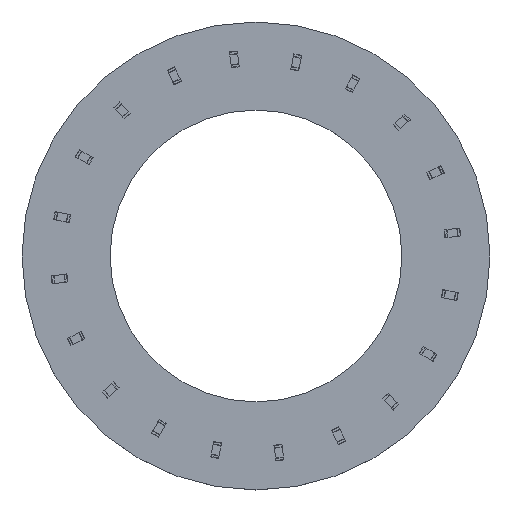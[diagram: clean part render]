
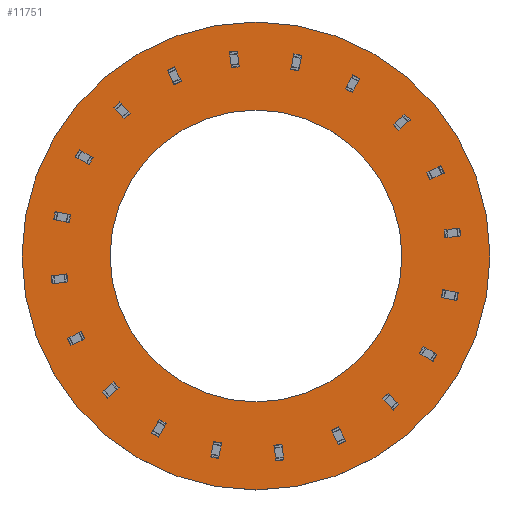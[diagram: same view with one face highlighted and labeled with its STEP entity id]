
A CAD part, top view. The second image highlights one B-rep face of the part: STEP entity #11751.
In plain terms, the highlighted planar face has unit normal (0, 0, 1).
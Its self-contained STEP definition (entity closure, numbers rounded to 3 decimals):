
#11635 = VERTEX_POINT('',#11636);
#11636 = CARTESIAN_POINT('',(23.622,0.,1.6));
#11643 = CYLINDRICAL_SURFACE('',#11644,23.622);
#11644 = AXIS2_PLACEMENT_3D('',#11645,#11646,#11647);
#11645 = CARTESIAN_POINT('',(0.,0.,0.));
#11646 = DIRECTION('',(0.,0.,-1.));
#11647 = DIRECTION('',(1.,0.,0.));
#11662 = EDGE_CURVE('',#11635,#11635,#11663,.T.);
#11663 = SURFACE_CURVE('',#11664,(#11669,#11676),.PCURVE_S1.);
#11664 = CIRCLE('',#11665,23.622);
#11665 = AXIS2_PLACEMENT_3D('',#11666,#11667,#11668);
#11666 = CARTESIAN_POINT('',(0.,0.,1.6));
#11667 = DIRECTION('',(0.,0.,1.));
#11668 = DIRECTION('',(1.,0.,0.));
#11669 = PCURVE('',#11643,#11670);
#11670 = DEFINITIONAL_REPRESENTATION('',(#11671),#11675);
#11671 = LINE('',#11672,#11673);
#11672 = CARTESIAN_POINT('',(0.,-1.6));
#11673 = VECTOR('',#11674,1.);
#11674 = DIRECTION('',(-1.,0.));
#11675 = ( GEOMETRIC_REPRESENTATION_CONTEXT(2) 
PARAMETRIC_REPRESENTATION_CONTEXT() REPRESENTATION_CONTEXT('2D SPACE',''
  ) );
#11676 = PCURVE('',#11677,#11682);
#11677 = PLANE('',#11678);
#11678 = AXIS2_PLACEMENT_3D('',#11679,#11680,#11681);
#11679 = CARTESIAN_POINT('',(0.,0.,
    1.6));
#11680 = DIRECTION('',(0.,0.,1.));
#11681 = DIRECTION('',(1.,0.,0.));
#11682 = DEFINITIONAL_REPRESENTATION('',(#11683),#11687);
#11683 = CIRCLE('',#11684,23.622);
#11684 = AXIS2_PLACEMENT_2D('',#11685,#11686);
#11685 = CARTESIAN_POINT('',(0.,0.));
#11686 = DIRECTION('',(1.,0.));
#11687 = ( GEOMETRIC_REPRESENTATION_CONTEXT(2) 
PARAMETRIC_REPRESENTATION_CONTEXT() REPRESENTATION_CONTEXT('2D SPACE',''
  ) );
#11740 = CYLINDRICAL_SURFACE('',#11741,14.732);
#11741 = AXIS2_PLACEMENT_3D('',#11742,#11743,#11744);
#11742 = CARTESIAN_POINT('',(0.,0.,0.));
#11743 = DIRECTION('',(0.,0.,-1.));
#11744 = DIRECTION('',(1.,0.,0.));
#11751 = ADVANCED_FACE('',(#11752,#11755),#11677,.T.);
#11752 = FACE_BOUND('',#11753,.T.);
#11753 = EDGE_LOOP('',(#11754));
#11754 = ORIENTED_EDGE('',*,*,#11662,.T.);
#11755 = FACE_BOUND('',#11756,.T.);
#11756 = EDGE_LOOP('',(#11757));
#11757 = ORIENTED_EDGE('',*,*,#11758,.F.);
#11758 = EDGE_CURVE('',#11759,#11759,#11761,.T.);
#11759 = VERTEX_POINT('',#11760);
#11760 = CARTESIAN_POINT('',(14.732,0.,1.6));
#11761 = SURFACE_CURVE('',#11762,(#11767,#11774),.PCURVE_S1.);
#11762 = CIRCLE('',#11763,14.732);
#11763 = AXIS2_PLACEMENT_3D('',#11764,#11765,#11766);
#11764 = CARTESIAN_POINT('',(0.,0.,1.6));
#11765 = DIRECTION('',(0.,0.,1.));
#11766 = DIRECTION('',(1.,0.,0.));
#11767 = PCURVE('',#11677,#11768);
#11768 = DEFINITIONAL_REPRESENTATION('',(#11769),#11773);
#11769 = CIRCLE('',#11770,14.732);
#11770 = AXIS2_PLACEMENT_2D('',#11771,#11772);
#11771 = CARTESIAN_POINT('',(0.,0.));
#11772 = DIRECTION('',(1.,0.));
#11773 = ( GEOMETRIC_REPRESENTATION_CONTEXT(2) 
PARAMETRIC_REPRESENTATION_CONTEXT() REPRESENTATION_CONTEXT('2D SPACE',''
  ) );
#11774 = PCURVE('',#11740,#11775);
#11775 = DEFINITIONAL_REPRESENTATION('',(#11776),#11780);
#11776 = LINE('',#11777,#11778);
#11777 = CARTESIAN_POINT('',(0.,-1.6));
#11778 = VECTOR('',#11779,1.);
#11779 = DIRECTION('',(-1.,0.));
#11780 = ( GEOMETRIC_REPRESENTATION_CONTEXT(2) 
PARAMETRIC_REPRESENTATION_CONTEXT() REPRESENTATION_CONTEXT('2D SPACE',''
  ) );
